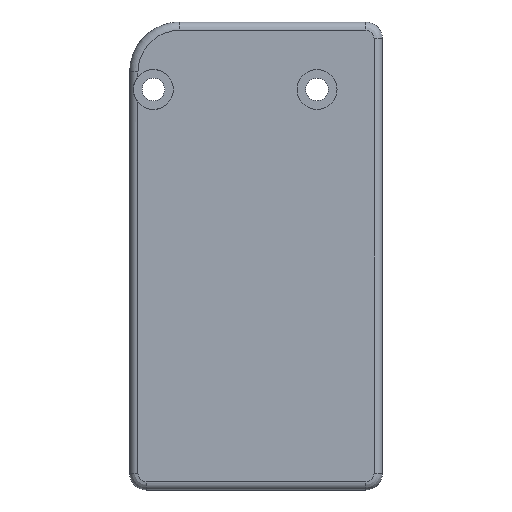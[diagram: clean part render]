
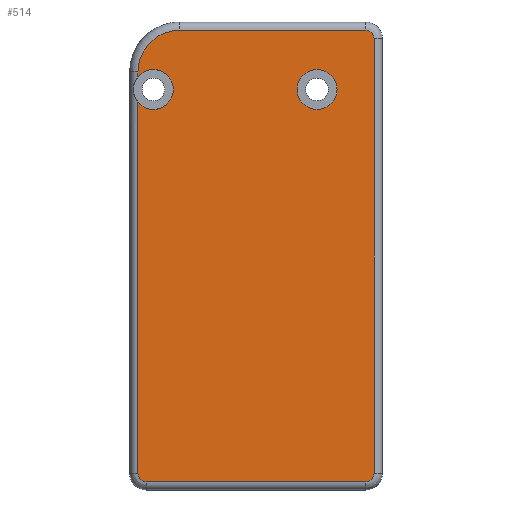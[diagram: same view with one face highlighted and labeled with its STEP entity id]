
A CAD part, front view. The second image highlights one B-rep face of the part: STEP entity #514.
In plain terms, the highlighted planar face has unit normal (0, -1, 0).
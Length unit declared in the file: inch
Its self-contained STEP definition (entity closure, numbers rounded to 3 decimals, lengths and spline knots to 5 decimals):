
#19=FACE_BOUND('',#104,.T.);
#32=PLANE('',#590);
#68=FACE_OUTER_BOUND('',#103,.T.);
#103=EDGE_LOOP('',(#458,#459,#460,#461,#462,#463,#464,#465,#466,#467));
#104=EDGE_LOOP('',(#468));
#124=LINE('',#850,#158);
#125=LINE('',#866,#159);
#126=LINE('',#896,#160);
#127=LINE('',#898,#161);
#129=LINE('',#907,#163);
#158=VECTOR('',#664,0.3937);
#159=VECTOR('',#673,0.3937);
#160=VECTOR('',#680,0.3937);
#161=VECTOR('',#683,0.3937);
#163=VECTOR('',#695,0.3937);
#186=CIRCLE('',#550,0.05);
#191=CIRCLE('',#556,0.05);
#194=CIRCLE('',#560,0.05);
#198=CIRCLE('',#566,0.25);
#201=CIRCLE('',#574,0.12);
#204=CIRCLE('',#579,0.12);
#232=VERTEX_POINT('',#841);
#233=VERTEX_POINT('',#843);
#234=VERTEX_POINT('',#848);
#235=VERTEX_POINT('',#860);
#236=VERTEX_POINT('',#864);
#237=VERTEX_POINT('',#876);
#238=VERTEX_POINT('',#880);
#240=VERTEX_POINT('',#888);
#241=VERTEX_POINT('',#895);
#242=VERTEX_POINT('',#900);
#248=VERTEX_POINT('',#927);
#285=EDGE_CURVE('',#232,#233,#186,.T.);
#289=EDGE_CURVE('',#233,#234,#124,.T.);
#291=EDGE_CURVE('',#234,#235,#191,.T.);
#293=EDGE_CURVE('',#235,#236,#125,.T.);
#295=EDGE_CURVE('',#236,#237,#194,.T.);
#298=EDGE_CURVE('',#240,#241,#126,.T.);
#300=EDGE_CURVE('',#237,#238,#127,.T.);
#303=EDGE_CURVE('',#241,#242,#198,.T.);
#305=EDGE_CURVE('',#242,#232,#129,.T.);
#311=EDGE_CURVE('',#240,#238,#201,.T.);
#315=EDGE_CURVE('',#248,#248,#204,.T.);
#458=ORIENTED_EDGE('',*,*,#298,.F.);
#459=ORIENTED_EDGE('',*,*,#311,.T.);
#460=ORIENTED_EDGE('',*,*,#300,.F.);
#461=ORIENTED_EDGE('',*,*,#295,.F.);
#462=ORIENTED_EDGE('',*,*,#293,.F.);
#463=ORIENTED_EDGE('',*,*,#291,.F.);
#464=ORIENTED_EDGE('',*,*,#289,.F.);
#465=ORIENTED_EDGE('',*,*,#285,.F.);
#466=ORIENTED_EDGE('',*,*,#305,.F.);
#467=ORIENTED_EDGE('',*,*,#303,.F.);
#468=ORIENTED_EDGE('',*,*,#315,.T.);
#514=ADVANCED_FACE('',(#68,#19),#32,.F.);
#550=AXIS2_PLACEMENT_3D('',#844,#654,#655);
#556=AXIS2_PLACEMENT_3D('',#862,#667,#668);
#560=AXIS2_PLACEMENT_3D('',#878,#676,#677);
#566=AXIS2_PLACEMENT_3D('',#904,#690,#691);
#574=AXIS2_PLACEMENT_3D('',#919,#711,#712);
#579=AXIS2_PLACEMENT_3D('',#928,#722,#723);
#590=AXIS2_PLACEMENT_3D('',#948,#749,#750);
#654=DIRECTION('center_axis',(0.,1.,0.));
#655=DIRECTION('ref_axis',(0.707,0.,0.707));
#664=DIRECTION('',(0.,0.,-1.));
#667=DIRECTION('center_axis',(0.,1.,0.));
#668=DIRECTION('ref_axis',(0.707,0.,-0.707));
#673=DIRECTION('',(-1.,0.,0.));
#676=DIRECTION('center_axis',(0.,1.,0.));
#677=DIRECTION('ref_axis',(-0.707,0.,-0.707));
#680=DIRECTION('',(0.,0.,1.));
#683=DIRECTION('',(0.,0.,1.));
#690=DIRECTION('center_axis',(0.,1.,0.));
#691=DIRECTION('ref_axis',(-0.707,0.,0.707));
#695=DIRECTION('',(1.,0.,0.));
#711=DIRECTION('center_axis',(0.,1.,0.));
#712=DIRECTION('ref_axis',(1.,0.,0.));
#722=DIRECTION('center_axis',(0.,1.,0.));
#723=DIRECTION('ref_axis',(1.,0.,0.));
#749=DIRECTION('center_axis',(0.,1.,0.));
#750=DIRECTION('ref_axis',(1.,0.,0.));
#841=CARTESIAN_POINT('',(0.63712,0.,1.585));
#843=CARTESIAN_POINT('',(0.68712,0.,1.535));
#844=CARTESIAN_POINT('Origin',(0.63712,0.,1.535));
#848=CARTESIAN_POINT('',(0.68712,0.,-1.075));
#850=CARTESIAN_POINT('',(0.68712,0.,1.43889));
#860=CARTESIAN_POINT('',(0.63712,0.,-1.125));
#862=CARTESIAN_POINT('Origin',(0.63712,0.,-1.075));
#864=CARTESIAN_POINT('',(-0.68,0.,-1.125));
#866=CARTESIAN_POINT('',(0.30784,0.,-1.125));
#876=CARTESIAN_POINT('',(-0.73,0.,-1.075));
#878=CARTESIAN_POINT('Origin',(-0.68,0.,-1.075));
#880=CARTESIAN_POINT('',(-0.73,0.,1.15356));
#888=CARTESIAN_POINT('',(-0.73,0.,1.30644));
#895=CARTESIAN_POINT('',(-0.73,0.,1.335));
#896=CARTESIAN_POINT('',(-0.73,0.,1.19667));
#898=CARTESIAN_POINT('',(-0.73,0.,1.19667));
#900=CARTESIAN_POINT('',(-0.48,0.,1.585));
#904=CARTESIAN_POINT('Origin',(-0.48,0.,1.335));
#907=CARTESIAN_POINT('',(-0.25072,0.,1.585));
#919=CARTESIAN_POINT('Origin',(-0.6375,0.,1.23));
#927=CARTESIAN_POINT('',(0.225,0.,1.23));
#928=CARTESIAN_POINT('Origin',(0.345,0.,1.23));
#948=CARTESIAN_POINT('Origin',(-0.02144,0.,1.34278));
